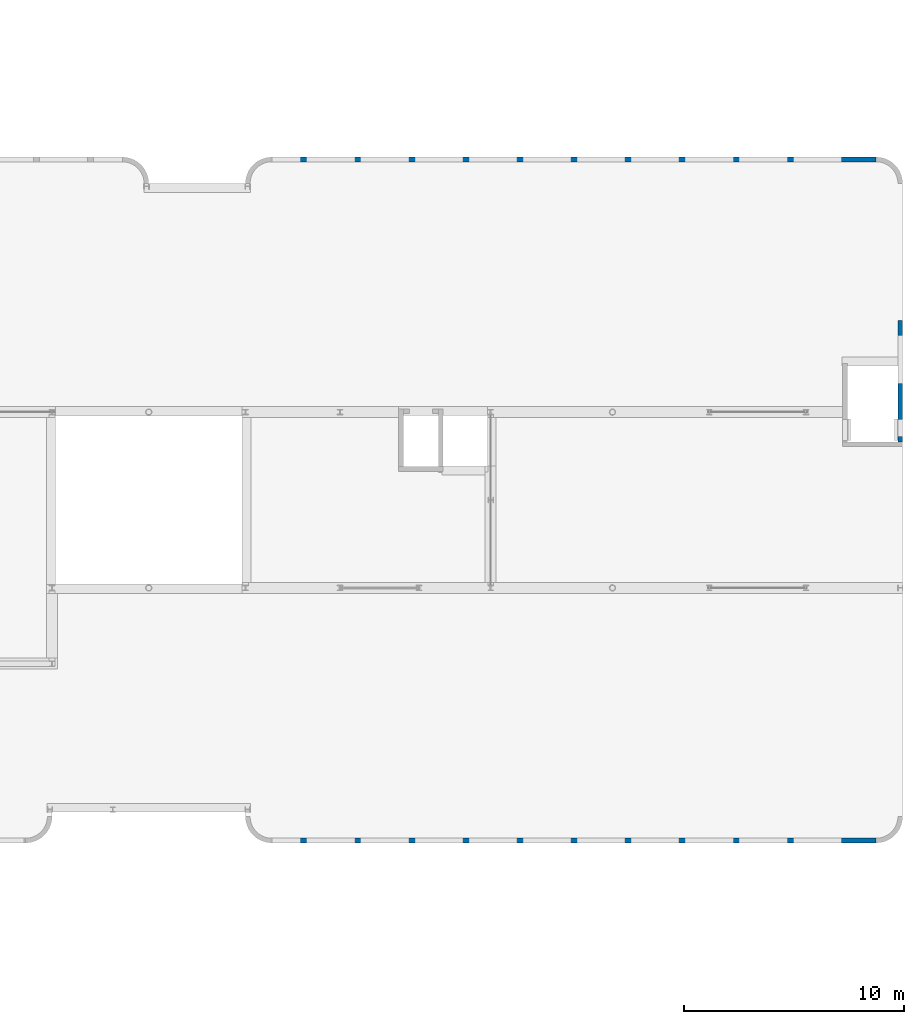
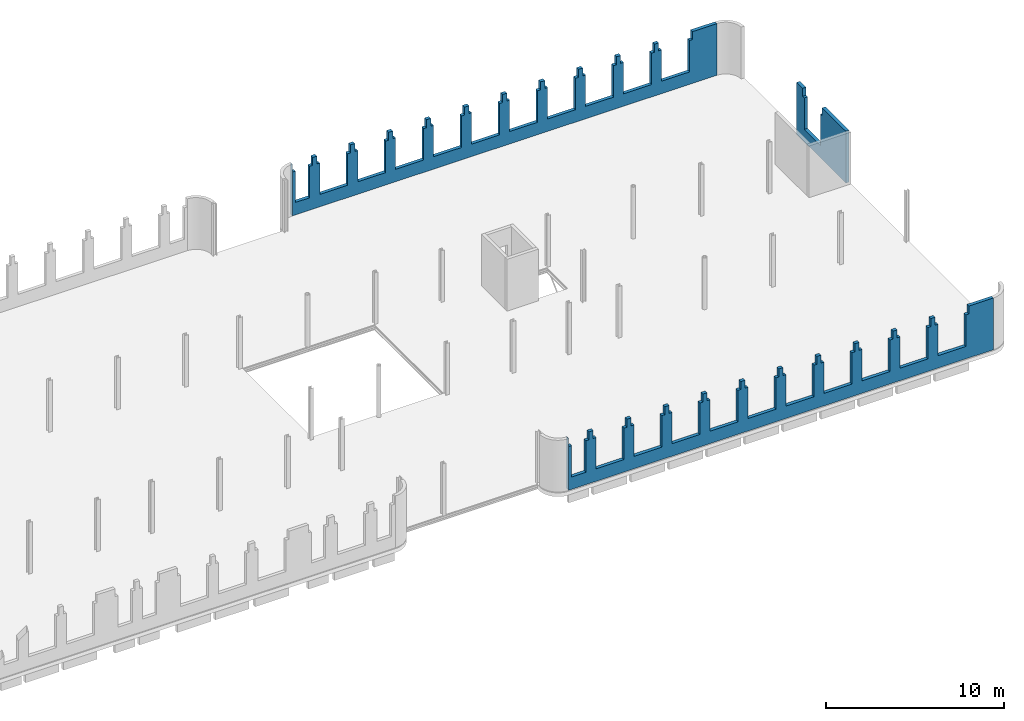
# One storey, part 25 of 25: 3 walls.
"""IFC2X3 building model written with IfcOpenShell, lengths in millimetres."""

import ifcopenshell
import ifcopenshell.guid

model = None  # the IFC model being written
_history = None  # IfcOwnerHistory: only IFC2X3 demands one
_inside = {}  # id of a spatial element -> (the spatial element, [elements in it])
_under = {}  # id of a project, library or spatial element -> (it, [spatial elements below it])
_declared = {}  # id of a project -> (the project, [libraries it declares])
_typed = {}  # id of a type object -> (the type object, [elements of that type])
_made_of = {}  # id of a material, layer set ... -> (it, [elements and type objects made of it])


def new_model(schema):
    """Start an empty IFC model of exactly this schema.

    Asked for "IFC4X3", IfcOpenShell would pick the latest addendum, in which some entities
    have other attributes; the version numbers below select the first issue.
    IFC2X3 requires an IfcOwnerHistory on every rooted entity: one is made here for all.
    """
    global model, _history
    if schema == "IFC4X3":
        model = ifcopenshell.file(schema_version=(4, 3, 0, 0))
    else:
        model = ifcopenshell.file(schema=schema)
    _inside.clear()
    _under.clear()
    _declared.clear()
    _typed.clear()
    _made_of.clear()
    _history = None
    if model.schema == "IFC2X3":
        org = make("IfcOrganization", Name="unknown")
        user = make(
            "IfcPersonAndOrganization",
            ThePerson=make("IfcPerson", FamilyName="unknown"),
            TheOrganization=org,
        )
        app = make(
            "IfcApplication",
            ApplicationDeveloper=org,
            Version="unknown",
            ApplicationFullName="unknown",
            ApplicationIdentifier="unknown",
        )
        _history = make(
            "IfcOwnerHistory",
            OwningUser=user,
            OwningApplication=app,
            ChangeAction="ADDED",
            CreationDate=0,
        )
    return model


def make(cls, **values):
    """One entity of the class cls with the attributes given. An attribute that is None is left unset."""
    return model.create_entity(
        cls, **{name: value for name, value in values.items() if value is not None}
    )


def entity(cls, *values):
    """Any entity or typed value of the class cls, its attributes in the order of the schema. None: left unset."""
    e = model.create_entity(cls)
    for i, value in enumerate(values):
        if value is not None:
            e[i] = value
    return e


def rooted(cls, **values):
    """An entity with a GlobalId (a new one), such as an element, a storey or a relation."""
    return make(cls, GlobalId=ifcopenshell.guid.new(), OwnerHistory=_history, **values)


def si_unit(unit_type, name, prefix=None):
    """IfcSIUnit, for example si_unit("LENGTHUNIT", "METRE", prefix="MILLI")."""
    return make("IfcSIUnit", UnitType=unit_type, Prefix=prefix, Name=name)


def converted_unit(unit_type, name, factor, base, dimensions=None, offset=None):
    """IfcConversionBasedUnit, such as the inch: factor (a typed value) times the base unit."""
    return make(
        "IfcConversionBasedUnit"
        if offset is None
        else "IfcConversionBasedUnitWithOffset",
        ConversionOffset=offset,
        Dimensions=None
        if dimensions is None
        else entity("IfcDimensionalExponents", *dimensions),
        UnitType=unit_type,
        Name=name,
        ConversionFactor=make(
            "IfcMeasureWithUnit", ValueComponent=factor, UnitComponent=base
        ),
    )


def derived_unit(unit_type, elements):
    """IfcDerivedUnit: a product of units, each with its exponent."""
    return make(
        "IfcDerivedUnit",
        Elements=[
            make("IfcDerivedUnitElement", Unit=unit, Exponent=power)
            for unit, power in elements
        ],
        UnitType=unit_type,
    )


def assignment(units):
    """IfcUnitAssignment: the units of a project."""
    return None if units is None else make("IfcUnitAssignment", Units=units)


def point(xyz):
    """IfcCartesianPoint."""
    return None if xyz is None else make("IfcCartesianPoint", Coordinates=xyz)


def direction(xyz):
    """IfcDirection."""
    return None if xyz is None else make("IfcDirection", DirectionRatios=xyz)


def frame(location, z_axis=None, x_axis=None):
    """IfcAxis2Placement3D, a coordinate frame: its origin and axes. An axis left out is left unset."""
    return make(
        "IfcAxis2Placement3D",
        Location=point(location),
        Axis=direction(z_axis),
        RefDirection=direction(x_axis),
    )


def origin():
    """The frame at (0, 0, 0) with its axes left unset."""
    return frame((0.0, 0.0, 0.0))


def place(relative_to, where):
    """IfcLocalPlacement: puts the frame where relative to a parent placement (None: the world)."""
    return make(
        "IfcLocalPlacement", PlacementRelTo=relative_to, RelativePlacement=where
    )


def context(
    kind, dimensions, precision=None, world=None, true_north=None, identifier=None
):
    """IfcGeometricRepresentationContext, for example the 3D "Model" context."""
    return make(
        "IfcGeometricRepresentationContext",
        ContextIdentifier=identifier,
        ContextType=kind,
        CoordinateSpaceDimension=dimensions,
        Precision=precision,
        WorldCoordinateSystem=world,
        TrueNorth=true_north,
    )


def subcontext(parent, identifier, kind, view, scale=None):
    """IfcGeometricRepresentationSubContext, for example "Body" below "Model"."""
    return make(
        "IfcGeometricRepresentationSubContext",
        ContextIdentifier=identifier,
        ContextType=kind,
        ParentContext=parent,
        TargetScale=scale,
        TargetView=view,
    )


def project(units=None, contexts=None):
    """IfcProject with its units and contexts."""
    return rooted(
        "IfcProject",
        Name="project",
        RepresentationContexts=contexts,
        UnitsInContext=assignment(units),
    )


def spatial(cls, under=None, at=None, **own):
    """A site, building, storey or space (cls), placed at a placement, below another one or the project."""
    s = rooted(cls, ObjectPlacement=at, **own)
    if under is not None:
        _under.setdefault(under.id(), (under, []))[1].append(s)
    return s


def faces_of(points, faces, orient=None, outer=None):
    """IfcFace entities. A face is a list of loops; a loop is a list of indices into points, from 0.

    orient and outer hold one flag for each loop. By default every Orientation is true, the
    first loop of a face is its IfcFaceOuterBound and the others are IfcFaceBound.
    """
    made = []
    for i, loops in enumerate(faces):
        bounds = []
        for j, loop in enumerate(loops):
            is_outer = j == 0 if outer is None else outer[i][j]
            bounds.append(
                make(
                    "IfcFaceOuterBound" if is_outer else "IfcFaceBound",
                    Bound=make("IfcPolyLoop", Polygon=[points[k] for k in loop]),
                    Orientation=True if orient is None else orient[i][j],
                )
            )
        made.append(make("IfcFace", Bounds=bounds))
    return made


def faceted_brep(points, faces, orient=None, outer=None, voids=None):
    """IfcFacetedBrep: a solid bounded by flat faces; with voids (closed shells), ...WithVoids."""
    shared = [point(p) for p in points]
    hull = make("IfcClosedShell", CfsFaces=faces_of(shared, faces, orient, outer))
    if voids is None:
        return make("IfcFacetedBrep", Outer=hull)
    return make(
        "IfcFacetedBrepWithVoids",
        Outer=hull,
        Voids=[
            make(cls, CfsFaces=faces_of(shared, fs, o, b)) for cls, fs, o, b in voids
        ],
    )


def shape(context_of_items, identifier, shape_type, items):
    """IfcShapeRepresentation: the items that make up one representation, for example the "Body"."""
    return make(
        "IfcShapeRepresentation",
        ContextOfItems=context_of_items,
        RepresentationIdentifier=identifier,
        RepresentationType=shape_type,
        Items=items,
    )


def material(Name=None, Category=None):
    """IfcMaterial."""
    return make("IfcMaterial", Name=Name, Category=Category)


def layer(
    of_material, thickness, ventilated=None, Name=None, Category=None, Priority=None
):
    """IfcMaterialLayer: one layer of a wall or slab, of a material (None: an air gap)."""
    return make(
        "IfcMaterialLayer",
        Material=of_material,
        LayerThickness=thickness,
        IsVentilated=ventilated,
        Name=Name,
        Category=Category,
        Priority=Priority,
    )


def layer_set(layers, Name=None):
    """IfcMaterialLayerSet."""
    return make("IfcMaterialLayerSet", MaterialLayers=layers, LayerSetName=Name)


def made_of(thing, what):
    """Note that an element or type object is made of a material, layer set ...; save() writes the relation."""
    if what is not None:
        _made_of.setdefault(what.id(), (what, []))[1].append(thing)
    return thing


def type_object(cls, material=None, **own):
    """A type object (cls), such as IfcWallType, which elements share."""
    return made_of(rooted(cls, **own), material)


def element(
    cls,
    number,
    at=None,
    inside=None,
    cuts=None,
    type_object=None,
    material=None,
    context=None,
    identifier="Body",
    shape_type=None,
    held_by="IfcProductDefinitionShape",
    body=None,
    shapes=None,
    **own,
):
    """One element of the class cls, such as IfcWall. Its Tag is "e" and its number.

    at: its placement. inside: the storey or other place that contains it. cuts: it is an
    opening in that element (IfcRelVoidsElement). A single representation is given by context,
    identifier, shape_type and body (its items); several are given by shapes. held_by: the class
    of the entity that holds the representations. save() writes the other relations.
    """
    e = rooted(cls, Tag="e%d" % number, ObjectPlacement=at, **own)
    if body is not None:
        shapes = [shape(context, identifier, shape_type, body)]
    if shapes is not None:
        e.Representation = make(held_by, Representations=shapes)
    if inside is not None:
        _inside.setdefault(inside.id(), (inside, []))[1].append(e)
    if cuts is not None:
        rooted(
            "IfcRelVoidsElement", RelatingBuildingElement=cuts, RelatedOpeningElement=e
        )
    if type_object is not None:
        _typed.setdefault(type_object.id(), (type_object, []))[1].append(e)
    return made_of(e, material)


def aggregate(whole, parts):
    """IfcRelAggregates: a whole, such as a stair, and the parts it consists of."""
    return rooted("IfcRelAggregates", RelatingObject=whole, RelatedObjects=parts)


def save(model, path):
    """Write the relations noted so far, then the file.

    IfcRelAggregates (storeys below a building ...), IfcRelContainedInSpatialStructure (elements
    in a storey), IfcRelDefinesByType, IfcRelAssociatesMaterial and IfcRelDeclares: one each for
    every whole, place, type object, material and project.
    """
    for whole, parts in _under.values():
        aggregate(whole, parts)
    for where, things in _inside.values():
        rooted(
            "IfcRelContainedInSpatialStructure",
            RelatedElements=things,
            RelatingStructure=where,
        )
    for kind, things in _typed.values():
        rooted("IfcRelDefinesByType", RelatedObjects=things, RelatingType=kind)
    for what, things in _made_of.values():
        rooted("IfcRelAssociatesMaterial", RelatedObjects=things, RelatingMaterial=what)
    for by, libraries in _declared.values():
        rooted("IfcRelDeclares", RelatingContext=by, RelatedDefinitions=libraries)
    model.write(path)


model = new_model("IFC2X3")

# Units and contexts
model_context = context("Model", 3, precision=0.01, world=origin(), true_north=direction((6.123031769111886e-17, 1.0)))
body_context = subcontext(model_context, "Body", "Model", "MODEL_VIEW")
ifc_project = project(units=[si_unit("LENGTHUNIT", "METRE", prefix="MILLI"), si_unit("AREAUNIT", "SQUARE_METRE"), si_unit("VOLUMEUNIT", "CUBIC_METRE"), derived_unit("MASSDENSITYUNIT", [(si_unit("MASSUNIT", "GRAM", prefix="KILO"), 1), (si_unit("LENGTHUNIT", "METRE"), -3)]), si_unit("MASSUNIT", "GRAM", prefix="KILO"), converted_unit("PLANEANGLEUNIT", "DEGREE", entity("IfcPlaneAngleMeasure", 0.017453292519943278), si_unit("PLANEANGLEUNIT", "RADIAN"), dimensions=[0, 0, 0, 0, 0, 0, 0])], contexts=[model_context])

# Site, building, storey
site_placement = place(None, origin())
site = spatial("IfcSite", under=ifc_project, at=site_placement, Name="Default", CompositionType="ELEMENT")
building_placement = place(site_placement, origin())
building = spatial("IfcBuilding", under=site, at=building_placement, Name="AT constructie", CompositionType="ELEMENT")
storey_placement = place(building_placement, frame((0.0, 0.0, 3864.0)))
storey = spatial("IfcBuildingStorey", under=building, at=storey_placement, Name="01 eerste verdieping", CompositionType="ELEMENT", Elevation=3864.0)

# Walls
ifc_material = material(Name="f1_kalkzandsteen_CS20")
ifc_layer = layer(ifc_material, 214.0)
ifc_layer_set = layer_set([ifc_layer], Name="Basic Wall:NLRS_22_WA_kalkzandsteen 214_CS20_gen_AT")
wall_type = type_object("IfcWallType", Name="NLRS_22_WA_kalkzandsteen 214_CS20_gen_AT", PredefinedType="STANDARD", material=ifc_layer_set)
wall_1_placement = place(storey_placement, frame((79446.87463111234, 42764.043508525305, -50.0)))
element("IfcWall", 1, at=wall_1_placement, inside=storey, type_object=wall_type, Name="Basic Wall:NLRS_22_WA_kalkzandsteen 214_CS20_gen_AT", ObjectType="Basic Wall:NLRS_22_WA_kalkzandsteen 214_CS20_gen_AT", context=body_context, shape_type="Brep", body=[
    faceted_brep([(0.0, -107.0, 0.0), (27500.0, -107.0, 0.0), (27500.0, -107.0, 3544.0), (25915.0, -107.0, 3544.0), (25915.0, -107.0, 3000.0), (25725.0, -107.0, 3000.0), (25725.0, -107.0, 850.0), (23915.0, -107.0, 850.0), (23915.0, -107.0, 3000.0), (23725.0, -107.0, 3000.0), (23725.0, -107.0, 3544.0), (23455.0, -107.0, 3544.0), (23455.0, -107.0, 3000.0), (23265.0, -107.0, 3000.0), (23265.0, -107.0, 850.0), (21455.0, -107.0, 850.0), (21455.0, -107.0, 3000.0), (21265.0, -107.0, 3000.0), (21265.0, -107.0, 3544.0), (20995.0, -107.0, 3544.0), (20995.0, -107.0, 3000.0), (20805.0, -107.0, 3000.0), (20805.0, -107.0, 850.0), (18995.0, -107.0, 850.0), (18995.0, -107.0, 3000.0), (18805.0, -107.0, 3000.0), (18805.0, -107.0, 3544.0), (18535.0, -107.0, 3544.0), (18535.0, -107.0, 3000.0), (18345.0, -107.0, 3000.0), (18345.0, -107.0, 850.0), (16535.0, -107.0, 850.0), (16535.0, -107.0, 3000.0), (16345.0, -107.0, 3000.0), (16345.0, -107.0, 3544.0), (16075.0, -107.0, 3544.0), (16075.0, -107.0, 3000.0), (15885.0, -107.0, 3000.0), (15885.0, -107.0, 850.0), (14075.0, -107.0, 850.0), (14075.0, -107.0, 3000.0), (13885.0, -107.0, 3000.0), (13885.0, -107.0, 3544.0), (13615.0, -107.0, 3544.0), (13615.0, -107.0, 3000.0), (13425.0, -107.0, 3000.0), (13425.0, -107.0, 850.0), (11615.0, -107.0, 850.0), (11615.0, -107.0, 3000.0), (11425.0, -107.0, 3000.0), (11425.0, -107.0, 3544.0), (11155.0, -107.0, 3544.0), (11155.0, -107.0, 3000.0), (10965.0, -107.0, 3000.0), (10965.0, -107.0, 850.0), (9155.0, -107.0, 850.0), (9155.0, -107.0, 3000.0), (8965.0, -107.0, 3000.0), (8965.0, -107.0, 3544.0), (8695.0, -107.0, 3544.0), (8695.0, -107.0, 3000.0), (8505.0, -107.0, 3000.0), (8505.0, -107.0, 850.0), (6695.0, -107.0, 850.0), (6695.0, -107.0, 3000.0), (6505.0, -107.0, 3000.0), (6505.0, -107.0, 3544.0), (6235.0, -107.0, 3544.0), (6235.0, -107.0, 3000.0), (6045.0, -107.0, 3000.0), (6045.0, -107.0, 850.0), (4235.0, -107.0, 850.0), (4235.0, -107.0, 3000.0), (4045.0, -107.0, 3000.0), (4045.0, -107.0, 3544.0), (3775.0, -107.0, 3544.0), (3775.0, -107.0, 3000.0), (3585.0, -107.0, 3000.0), (3585.0, -107.0, 850.0), (1775.0, -107.0, 850.0), (1775.0, -107.0, 3000.0), (1585.0, -107.0, 3000.0), (1585.0, -107.0, 3544.0), (1315.0, -107.0, 3544.0), (1315.0, -107.0, 3000.0), (1125.0, -107.0, 3000.0), (1125.0, -107.0, 850.0), (195.0, -107.0, 850.0), (195.0, -107.0, 3000.0), (5.0, -107.0, 3000.0), (5.0, -107.0, 3544.0), (0.0, -107.0, 3544.0), (27500.0, 107.0, 0.0), (0.0, 107.0, 0.0), (0.0, 107.0, 3544.0), (5.0, 107.0, 3544.0), (5.0, 107.0, 3000.0), (195.0, 107.0, 3000.0), (195.0, 107.0, 850.0), (1125.0, 107.0, 850.0), (1125.0, 107.0, 3000.0), (1315.0, 107.0, 3000.0), (1315.0, 107.0, 3544.0), (1585.0, 107.0, 3544.0), (1585.0, 107.0, 3000.0), (1775.0, 107.0, 3000.0), (1775.0, 107.0, 850.0), (3585.0, 107.0, 850.0), (3585.0, 107.0, 3000.0), (3775.0, 107.0, 3000.0), (3775.0, 107.0, 3544.0), (4045.0, 107.0, 3544.0), (4045.0, 107.0, 3000.0), (4235.0, 107.0, 3000.0), (4235.0, 107.0, 850.0), (6045.0, 107.0, 850.0), (6045.0, 107.0, 3000.0), (6235.0, 107.0, 3000.0), (6235.0, 107.0, 3544.0), (6505.0, 107.0, 3544.0), (6505.0, 107.0, 3000.0), (6695.0, 107.0, 3000.0), (6695.0, 107.0, 850.0), (8505.0, 107.0, 850.0), (8505.0, 107.0, 3000.0), (8695.0, 107.0, 3000.0), (8695.0, 107.0, 3544.0), (8965.0, 107.0, 3544.0), (8965.0, 107.0, 3000.0), (9155.0, 107.0, 3000.0), (9155.0, 107.0, 850.0), (10965.0, 107.0, 850.0), (10965.0, 107.0, 3000.0), (11155.0, 107.0, 3000.0), (11155.0, 107.0, 3544.0), (11425.0, 107.0, 3544.0), (11425.0, 107.0, 3000.0), (11615.0, 107.0, 3000.0), (11615.0, 107.0, 850.0), (13425.0, 107.0, 850.0), (13425.0, 107.0, 3000.0), (13615.0, 107.0, 3000.0), (13615.0, 107.0, 3544.0), (13885.0, 107.0, 3544.0), (13885.0, 107.0, 3000.0), (14075.0, 107.0, 3000.0), (14075.0, 107.0, 850.0), (15885.0, 107.0, 850.0), (15885.0, 107.0, 3000.0), (16075.0, 107.0, 3000.0), (16075.0, 107.0, 3544.0), (16345.0, 107.0, 3544.0), (16345.0, 107.0, 3000.0), (16535.0, 107.0, 3000.0), (16535.0, 107.0, 850.0), (18345.0, 107.0, 850.0), (18345.0, 107.0, 3000.0), (18535.0, 107.0, 3000.0), (18535.0, 107.0, 3544.0), (18805.0, 107.0, 3544.0), (18805.0, 107.0, 3000.0), (18995.0, 107.0, 3000.0), (18995.0, 107.0, 850.0), (20805.0, 107.0, 850.0), (20805.0, 107.0, 3000.0), (20995.0, 107.0, 3000.0), (20995.0, 107.0, 3544.0), (21265.0, 107.0, 3544.0), (21265.0, 107.0, 3000.0), (21455.0, 107.0, 3000.0), (21455.0, 107.0, 850.0), (23265.0, 107.0, 850.0), (23265.0, 107.0, 3000.0), (23455.0, 107.0, 3000.0), (23455.0, 107.0, 3544.0), (23725.0, 107.0, 3544.0), (23725.0, 107.0, 3000.0), (23915.0, 107.0, 3000.0), (23915.0, 107.0, 850.0), (25725.0, 107.0, 850.0), (25725.0, 107.0, 3000.0), (25915.0, 107.0, 3000.0), (25915.0, 107.0, 3544.0), (27500.0, 107.0, 3544.0)], [[[0, 1, 2, 3, 4, 5, 6, 7, 8, 9, 10, 11, 12, 13, 14, 15, 16, 17, 18, 19, 20, 21, 22, 23, 24, 25, 26, 27, 28, 29, 30, 31, 32, 33, 34, 35, 36, 37, 38, 39, 40, 41, 42, 43, 44, 45, 46, 47, 48, 49, 50, 51, 52, 53, 54, 55, 56, 57, 58, 59, 60, 61, 62, 63, 64, 65, 66, 67, 68, 69, 70, 71, 72, 73, 74, 75, 76, 77, 78, 79, 80, 81, 82, 83, 84, 85, 86, 87, 88, 89, 90, 91]], [[92, 93, 94, 95, 96, 97, 98, 99, 100, 101, 102, 103, 104, 105, 106, 107, 108, 109, 110, 111, 112, 113, 114, 115, 116, 117, 118, 119, 120, 121, 122, 123, 124, 125, 126, 127, 128, 129, 130, 131, 132, 133, 134, 135, 136, 137, 138, 139, 140, 141, 142, 143, 144, 145, 146, 147, 148, 149, 150, 151, 152, 153, 154, 155, 156, 157, 158, 159, 160, 161, 162, 163, 164, 165, 166, 167, 168, 169, 170, 171, 172, 173, 174, 175, 176, 177, 178, 179, 180, 181, 182, 183]], [[1, 0, 93, 92]], [[2, 1, 92, 183]], [[10, 175, 174, 11]], [[0, 91, 94, 93]], [[86, 99, 98, 87]], [[99, 86, 85, 100]], [[87, 98, 97, 88]], [[80, 79, 106, 105]], [[78, 77, 108, 107]], [[72, 71, 114, 113]], [[70, 69, 116, 115]], [[64, 63, 122, 121]], [[62, 61, 124, 123]], [[56, 55, 130, 129]], [[54, 53, 132, 131]], [[48, 47, 138, 137]], [[46, 45, 140, 139]], [[40, 39, 146, 145]], [[38, 37, 148, 147]], [[32, 31, 154, 153]], [[30, 29, 156, 155]], [[24, 23, 162, 161]], [[22, 21, 164, 163]], [[16, 15, 170, 169]], [[14, 13, 172, 171]], [[8, 7, 178, 177]], [[6, 5, 180, 179]], [[106, 79, 78, 107]], [[114, 71, 70, 115]], [[122, 63, 62, 123]], [[130, 55, 54, 131]], [[138, 47, 46, 139]], [[146, 39, 38, 147]], [[154, 31, 30, 155]], [[162, 23, 22, 163]], [[170, 15, 14, 171]], [[178, 7, 6, 179]], [[9, 176, 175, 10]], [[181, 4, 3, 182]], [[176, 9, 8, 177]], [[17, 168, 167, 18]], [[173, 12, 11, 174]], [[168, 17, 16, 169]], [[25, 160, 159, 26]], [[165, 20, 19, 166]], [[160, 25, 24, 161]], [[33, 152, 151, 34]], [[157, 28, 27, 158]], [[152, 33, 32, 153]], [[41, 144, 143, 42]], [[149, 36, 35, 150]], [[144, 41, 40, 145]], [[49, 136, 135, 50]], [[141, 44, 43, 142]], [[136, 49, 48, 137]], [[57, 128, 127, 58]], [[133, 52, 51, 134]], [[128, 57, 56, 129]], [[65, 120, 119, 66]], [[125, 60, 59, 126]], [[120, 65, 64, 121]], [[73, 112, 111, 74]], [[117, 68, 67, 118]], [[112, 73, 72, 113]], [[81, 104, 103, 82]], [[109, 76, 75, 110]], [[104, 81, 80, 105]], [[89, 96, 95, 90]], [[101, 84, 83, 102]], [[96, 89, 88, 97]], [[84, 101, 100, 85]], [[76, 109, 108, 77]], [[68, 117, 116, 69]], [[60, 125, 124, 61]], [[52, 133, 132, 53]], [[44, 141, 140, 45]], [[36, 149, 148, 37]], [[28, 157, 156, 29]], [[20, 165, 164, 21]], [[12, 173, 172, 13]], [[4, 181, 180, 5]], [[18, 167, 166, 19]], [[26, 159, 158, 27]], [[34, 151, 150, 35]], [[42, 143, 142, 43]], [[50, 135, 134, 51]], [[58, 127, 126, 59]], [[66, 119, 118, 67]], [[74, 111, 110, 75]], [[82, 103, 102, 83]], [[2, 183, 182, 3]], [[94, 91, 90, 95]]]),
])
wall_2_placement = place(storey_placement, frame((79446.87463111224, 11778.043508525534, -50.0)))
element("IfcWall", 2, at=wall_2_placement, inside=storey, type_object=wall_type, Name="Basic Wall:NLRS_22_WA_kalkzandsteen 214_CS20_gen_AT", ObjectType="Basic Wall:NLRS_22_WA_kalkzandsteen 214_CS20_gen_AT", context=body_context, shape_type="Brep", body=[
    faceted_brep([(0.0, -107.0, 0.0), (27500.0, -107.0, 0.0), (27500.0, -107.0, 3544.0), (25915.0, -107.0, 3544.0), (25915.0, -107.0, 3000.0), (25725.0, -107.0, 3000.0), (25725.0, -107.0, 850.0), (23915.0, -107.0, 850.0), (23915.0, -107.0, 3000.0), (23725.0, -107.0, 3000.0), (23725.0, -107.0, 3544.0), (23455.0, -107.0, 3544.0), (23455.0, -107.0, 3000.0), (23265.0, -107.0, 3000.0), (23265.0, -107.0, 850.0), (21455.0, -107.0, 850.0), (21455.0, -107.0, 3000.0), (21265.0, -107.0, 3000.0), (21265.0, -107.0, 3544.0), (20995.0, -107.0, 3544.0), (20995.0, -107.0, 3000.0), (20805.0, -107.0, 3000.0), (20805.0, -107.0, 850.0), (18995.0, -107.0, 850.0), (18995.0, -107.0, 3000.0), (18805.0, -107.0, 3000.0), (18805.0, -107.0, 3544.0), (18535.0, -107.0, 3544.0), (18535.0, -107.0, 3000.0), (18345.0, -107.0, 3000.0), (18345.0, -107.0, 850.0), (16535.0, -107.0, 850.0), (16535.0, -107.0, 3000.0), (16345.0, -107.0, 3000.0), (16345.0, -107.0, 3544.0), (16075.0, -107.0, 3544.0), (16075.0, -107.0, 3000.0), (15885.0, -107.0, 3000.0), (15885.0, -107.0, 850.0), (14075.0, -107.0, 850.0), (14075.0, -107.0, 3000.0), (13885.0, -107.0, 3000.0), (13885.0, -107.0, 3544.0), (13615.0, -107.0, 3544.0), (13615.0, -107.0, 3000.0), (13425.0, -107.0, 3000.0), (13425.0, -107.0, 850.0), (11615.0, -107.0, 850.0), (11615.0, -107.0, 3000.0), (11425.0, -107.0, 3000.0), (11425.0, -107.0, 3544.0), (11155.0, -107.0, 3544.0), (11155.0, -107.0, 3000.0), (10965.0, -107.0, 3000.0), (10965.0, -107.0, 850.0), (9155.0, -107.0, 850.0), (9155.0, -107.0, 3000.0), (8965.0, -107.0, 3000.0), (8965.0, -107.0, 3544.0), (8695.0, -107.0, 3544.0), (8695.0, -107.0, 3000.0), (8505.0, -107.0, 3000.0), (8505.0, -107.0, 850.0), (6695.0, -107.0, 850.0), (6695.0, -107.0, 3000.0), (6505.0, -107.0, 3000.0), (6505.0, -107.0, 3544.0), (6235.0, -107.0, 3544.0), (6235.0, -107.0, 3000.0), (6045.0, -107.0, 3000.0), (6045.0, -107.0, 850.0), (4235.0, -107.0, 850.0), (4235.0, -107.0, 3000.0), (4045.0, -107.0, 3000.0), (4045.0, -107.0, 3544.0), (3775.0, -107.0, 3544.0), (3775.0, -107.0, 3000.0), (3585.0, -107.0, 3000.0), (3585.0, -107.0, 850.0), (1775.0, -107.0, 850.0), (1775.0, -107.0, 3000.0), (1585.0, -107.0, 3000.0), (1585.0, -107.0, 3544.0), (1315.0, -107.0, 3544.0), (1315.0, -107.0, 3000.0), (1125.0, -107.0, 3000.0), (1125.0, -107.0, 850.0), (195.0, -107.0, 850.0), (195.0, -107.0, 3000.0), (5.0, -107.0, 3000.0), (5.0, -107.0, 3544.0), (0.0, -107.0, 3544.0), (27500.0, 107.0, 0.0), (0.0, 107.0, 0.0), (0.0, 107.0, 3544.0), (5.0, 107.0, 3544.0), (5.0, 107.0, 3000.0), (195.0, 107.0, 3000.0), (195.0, 107.0, 850.0), (1125.0, 107.0, 850.0), (1125.0, 107.0, 3000.0), (1315.0, 107.0, 3000.0), (1315.0, 107.0, 3544.0), (1585.0, 107.0, 3544.0), (1585.0, 107.0, 3000.0), (1775.0, 107.0, 3000.0), (1775.0, 107.0, 850.0), (3585.0, 107.0, 850.0), (3585.0, 107.0, 3000.0), (3775.0, 107.0, 3000.0), (3775.0, 107.0, 3544.0), (4045.0, 107.0, 3544.0), (4045.0, 107.0, 3000.0), (4235.0, 107.0, 3000.0), (4235.0, 107.0, 850.0), (6045.0, 107.0, 850.0), (6045.0, 107.0, 3000.0), (6235.0, 107.0, 3000.0), (6235.0, 107.0, 3544.0), (6505.0, 107.0, 3544.0), (6505.0, 107.0, 3000.0), (6695.0, 107.0, 3000.0), (6695.0, 107.0, 850.0), (8505.0, 107.0, 850.0), (8505.0, 107.0, 3000.0), (8695.0, 107.0, 3000.0), (8695.0, 107.0, 3544.0), (8965.0, 107.0, 3544.0), (8965.0, 107.0, 3000.0), (9155.0, 107.0, 3000.0), (9155.0, 107.0, 850.0), (10965.0, 107.0, 850.0), (10965.0, 107.0, 3000.0), (11155.0, 107.0, 3000.0), (11155.0, 107.0, 3544.0), (11425.0, 107.0, 3544.0), (11425.0, 107.0, 3000.0), (11615.0, 107.0, 3000.0), (11615.0, 107.0, 850.0), (13425.0, 107.0, 850.0), (13425.0, 107.0, 3000.0), (13615.0, 107.0, 3000.0), (13615.0, 107.0, 3544.0), (13885.0, 107.0, 3544.0), (13885.0, 107.0, 3000.0), (14075.0, 107.0, 3000.0), (14075.0, 107.0, 850.0), (15885.0, 107.0, 850.0), (15885.0, 107.0, 3000.0), (16075.0, 107.0, 3000.0), (16075.0, 107.0, 3544.0), (16345.0, 107.0, 3544.0), (16345.0, 107.0, 3000.0), (16535.0, 107.0, 3000.0), (16535.0, 107.0, 850.0), (18345.0, 107.0, 850.0), (18345.0, 107.0, 3000.0), (18535.0, 107.0, 3000.0), (18535.0, 107.0, 3544.0), (18805.0, 107.0, 3544.0), (18805.0, 107.0, 3000.0), (18995.0, 107.0, 3000.0), (18995.0, 107.0, 850.0), (20805.0, 107.0, 850.0), (20805.0, 107.0, 3000.0), (20995.0, 107.0, 3000.0), (20995.0, 107.0, 3544.0), (21265.0, 107.0, 3544.0), (21265.0, 107.0, 3000.0), (21455.0, 107.0, 3000.0), (21455.0, 107.0, 850.0), (23265.0, 107.0, 850.0), (23265.0, 107.0, 3000.0), (23455.0, 107.0, 3000.0), (23455.0, 107.0, 3544.0), (23725.0, 107.0, 3544.0), (23725.0, 107.0, 3000.0), (23915.0, 107.0, 3000.0), (23915.0, 107.0, 850.0), (25725.0, 107.0, 850.0), (25725.0, 107.0, 3000.0), (25915.0, 107.0, 3000.0), (25915.0, 107.0, 3544.0), (27500.0, 107.0, 3544.0)], [[[0, 1, 2, 3, 4, 5, 6, 7, 8, 9, 10, 11, 12, 13, 14, 15, 16, 17, 18, 19, 20, 21, 22, 23, 24, 25, 26, 27, 28, 29, 30, 31, 32, 33, 34, 35, 36, 37, 38, 39, 40, 41, 42, 43, 44, 45, 46, 47, 48, 49, 50, 51, 52, 53, 54, 55, 56, 57, 58, 59, 60, 61, 62, 63, 64, 65, 66, 67, 68, 69, 70, 71, 72, 73, 74, 75, 76, 77, 78, 79, 80, 81, 82, 83, 84, 85, 86, 87, 88, 89, 90, 91]], [[92, 93, 94, 95, 96, 97, 98, 99, 100, 101, 102, 103, 104, 105, 106, 107, 108, 109, 110, 111, 112, 113, 114, 115, 116, 117, 118, 119, 120, 121, 122, 123, 124, 125, 126, 127, 128, 129, 130, 131, 132, 133, 134, 135, 136, 137, 138, 139, 140, 141, 142, 143, 144, 145, 146, 147, 148, 149, 150, 151, 152, 153, 154, 155, 156, 157, 158, 159, 160, 161, 162, 163, 164, 165, 166, 167, 168, 169, 170, 171, 172, 173, 174, 175, 176, 177, 178, 179, 180, 181, 182, 183]], [[1, 0, 93, 92]], [[2, 1, 92, 183]], [[2, 183, 182, 3]], [[0, 91, 94, 93]], [[86, 99, 98, 87]], [[99, 86, 85, 100]], [[87, 98, 97, 88]], [[80, 79, 106, 105]], [[78, 77, 108, 107]], [[72, 71, 114, 113]], [[70, 69, 116, 115]], [[64, 63, 122, 121]], [[62, 61, 124, 123]], [[56, 55, 130, 129]], [[54, 53, 132, 131]], [[48, 47, 138, 137]], [[46, 45, 140, 139]], [[40, 39, 146, 145]], [[38, 37, 148, 147]], [[32, 31, 154, 153]], [[30, 29, 156, 155]], [[24, 23, 162, 161]], [[22, 21, 164, 163]], [[16, 15, 170, 169]], [[14, 13, 172, 171]], [[8, 7, 178, 177]], [[6, 5, 180, 179]], [[106, 79, 78, 107]], [[114, 71, 70, 115]], [[122, 63, 62, 123]], [[130, 55, 54, 131]], [[138, 47, 46, 139]], [[146, 39, 38, 147]], [[154, 31, 30, 155]], [[162, 23, 22, 163]], [[170, 15, 14, 171]], [[178, 7, 6, 179]], [[89, 96, 95, 90]], [[101, 84, 83, 102]], [[96, 89, 88, 97]], [[81, 104, 103, 82]], [[109, 76, 75, 110]], [[104, 81, 80, 105]], [[73, 112, 111, 74]], [[117, 68, 67, 118]], [[112, 73, 72, 113]], [[65, 120, 119, 66]], [[125, 60, 59, 126]], [[120, 65, 64, 121]], [[57, 128, 127, 58]], [[133, 52, 51, 134]], [[128, 57, 56, 129]], [[49, 136, 135, 50]], [[141, 44, 43, 142]], [[136, 49, 48, 137]], [[41, 144, 143, 42]], [[149, 36, 35, 150]], [[144, 41, 40, 145]], [[33, 152, 151, 34]], [[157, 28, 27, 158]], [[152, 33, 32, 153]], [[25, 160, 159, 26]], [[165, 20, 19, 166]], [[160, 25, 24, 161]], [[17, 168, 167, 18]], [[173, 12, 11, 174]], [[168, 17, 16, 169]], [[9, 176, 175, 10]], [[181, 4, 3, 182]], [[176, 9, 8, 177]], [[4, 181, 180, 5]], [[12, 173, 172, 13]], [[20, 165, 164, 21]], [[28, 157, 156, 29]], [[36, 149, 148, 37]], [[44, 141, 140, 45]], [[52, 133, 132, 53]], [[60, 125, 124, 61]], [[68, 117, 116, 69]], [[76, 109, 108, 77]], [[84, 101, 100, 85]], [[174, 11, 10, 175]], [[166, 19, 18, 167]], [[158, 27, 26, 159]], [[150, 35, 34, 151]], [[142, 43, 42, 143]], [[134, 51, 50, 135]], [[126, 59, 58, 127]], [[118, 67, 66, 119]], [[110, 75, 74, 111]], [[102, 83, 82, 103]], [[94, 91, 90, 95]]]),
])
wall_3_placement = place(storey_placement, frame((108039.87463111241, 35446.04350852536, -50.0), z_axis=(0.0, 0.0, 1.0), x_axis=(0.0, -1.0, 0.0)))
element("IfcWall", 3, at=wall_3_placement, inside=storey, type_object=wall_type, Name="Basic Wall:NLRS_22_WA_kalkzandsteen 214_CS20_gen_AT", ObjectType="Basic Wall:NLRS_22_WA_kalkzandsteen 214_CS20_gen_AT", context=body_context, shape_type="Brep", body=[
    faceted_brep([(0.0, -107.0, 0.0), (5525.0, -107.0, 0.0), (5525.0, -107.0, 3544.0), (2870.0, -107.0, 3544.0), (2870.0, -107.0, 3000.0), (2680.0, -107.0, 3000.0), (2680.0, -107.0, 850.0), (870.0, -107.0, 850.0), (870.0, -107.0, 3000.0), (680.0, -107.0, 3000.0), (680.0, -107.0, 3544.0), (0.0, -107.0, 3544.0), (5525.0, 107.0, 0.0), (0.0, 107.0, 0.0), (0.0, 107.0, 3544.0), (680.0, 107.0, 3544.0), (680.0, 107.0, 3000.0), (870.0, 107.0, 3000.0), (870.0, 107.0, 850.0), (2680.0, 107.0, 850.0), (2680.0, 107.0, 3000.0), (2870.0, 107.0, 3000.0), (2870.0, 107.0, 3544.0), (5525.0, 107.0, 3544.0)], [[[0, 1, 2, 3, 4, 5, 6, 7, 8, 9, 10, 11]], [[12, 13, 14, 15, 16, 17, 18, 19, 20, 21, 22, 23]], [[1, 0, 13, 12]], [[2, 23, 22, 3]], [[0, 11, 14, 13]], [[2, 1, 12, 23]], [[18, 17, 8, 7]], [[19, 18, 7, 6]], [[20, 19, 6, 5]], [[9, 16, 15, 10]], [[21, 4, 3, 22]], [[16, 9, 8, 17]], [[4, 21, 20, 5]], [[14, 11, 10, 15]]]),
])

save(model, "model.ifc")
